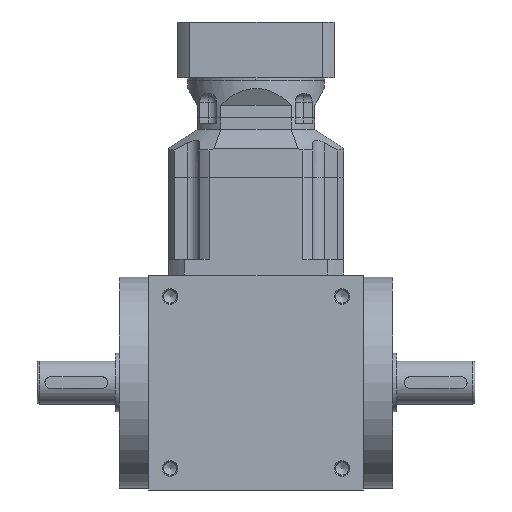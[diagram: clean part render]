
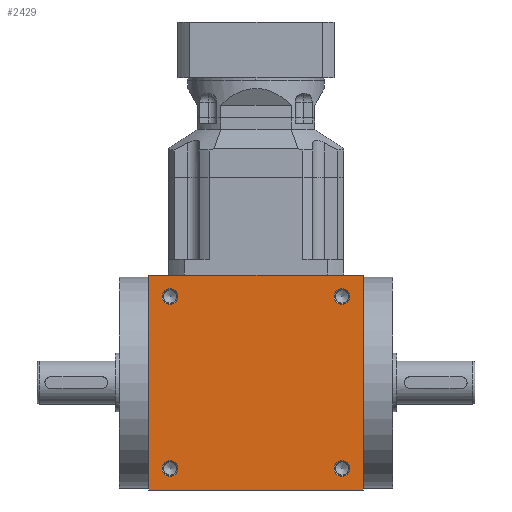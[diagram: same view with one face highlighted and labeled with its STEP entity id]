
A CAD part, left-side view. The second image highlights one B-rep face of the part: STEP entity #2429.
In plain terms, the highlighted planar face has unit normal (-1, 0, 0).
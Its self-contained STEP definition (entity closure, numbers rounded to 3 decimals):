
#657=LINE('',#12305,#1283);
#662=LINE('',#12606,#1288);
#663=LINE('',#12634,#1289);
#665=LINE('',#12637,#1291);
#1283=VECTOR('',#9705,1.);
#1288=VECTOR('',#10074,1.);
#1289=VECTOR('',#10111,1.);
#1291=VECTOR('',#10115,1.);
#1907=PLANE('',#8910);
#2429=ADVANCED_FACE('',(#3137,#3138,#3139,#3140,#3141),#1907,.T.);
#3137=FACE_BOUND('',#3488,.T.);
#3138=FACE_BOUND('',#3489,.T.);
#3139=FACE_BOUND('',#3490,.T.);
#3140=FACE_BOUND('',#3491,.T.);
#3141=FACE_BOUND('',#3492,.T.);
#3488=EDGE_LOOP('',(#4307));
#3489=EDGE_LOOP('',(#4308));
#3490=EDGE_LOOP('',(#4309));
#3491=EDGE_LOOP('',(#4310));
#3492=EDGE_LOOP('',(#4311,#4312,#4313,#4314));
#4307=ORIENTED_EDGE('',*,*,#7289,.T.);
#4308=ORIENTED_EDGE('',*,*,#7288,.T.);
#4309=ORIENTED_EDGE('',*,*,#7287,.T.);
#4310=ORIENTED_EDGE('',*,*,#7286,.T.);
#4311=ORIENTED_EDGE('',*,*,#7310,.T.);
#4312=ORIENTED_EDGE('',*,*,#7298,.T.);
#4313=ORIENTED_EDGE('',*,*,#7308,.F.);
#4314=ORIENTED_EDGE('',*,*,#7180,.T.);
#6361=VERTEX_POINT('',#12304);
#6362=VERTEX_POINT('',#12306);
#6463=VERTEX_POINT('',#12574);
#6464=VERTEX_POINT('',#12577);
#6465=VERTEX_POINT('',#12580);
#6466=VERTEX_POINT('',#12583);
#6473=VERTEX_POINT('',#12601);
#6475=VERTEX_POINT('',#12605);
#7180=EDGE_CURVE('',#6362,#6361,#657,.T.);
#7286=EDGE_CURVE('',#6463,#6463,#8364,.T.);
#7287=EDGE_CURVE('',#6464,#6464,#8365,.T.);
#7288=EDGE_CURVE('',#6465,#6465,#8366,.T.);
#7289=EDGE_CURVE('',#6466,#6466,#8367,.T.);
#7298=EDGE_CURVE('',#6473,#6475,#662,.T.);
#7308=EDGE_CURVE('',#6362,#6475,#663,.T.);
#7310=EDGE_CURVE('',#6361,#6473,#665,.T.);
#8364=CIRCLE('',#8874,4.);
#8365=CIRCLE('',#8876,4.);
#8366=CIRCLE('',#8878,4.);
#8367=CIRCLE('',#8880,4.);
#8874=AXIS2_PLACEMENT_3D('',#12573,#10037,#10038);
#8876=AXIS2_PLACEMENT_3D('',#12576,#10041,#10042);
#8878=AXIS2_PLACEMENT_3D('',#12579,#10045,#10046);
#8880=AXIS2_PLACEMENT_3D('',#12582,#10049,#10050);
#8910=AXIS2_PLACEMENT_3D('',#12638,#10116,#10117);
#9705=DIRECTION('',(0.,-1.,0.));
#10037=DIRECTION('',(1.,0.,0.));
#10038=DIRECTION('',(0.,0.,1.));
#10041=DIRECTION('',(1.,0.,0.));
#10042=DIRECTION('',(0.,0.,1.));
#10045=DIRECTION('',(1.,0.,0.));
#10046=DIRECTION('',(0.,0.,1.));
#10049=DIRECTION('',(1.,0.,0.));
#10050=DIRECTION('',(0.,0.,1.));
#10074=DIRECTION('',(0.,1.,0.));
#10111=DIRECTION('',(0.,0.,1.));
#10115=DIRECTION('',(0.,0.,1.));
#10116=DIRECTION('',(-1.,0.,0.));
#10117=DIRECTION('',(0.,0.,-1.));
#12304=CARTESIAN_POINT('',(0.,0.,0.));
#12305=CARTESIAN_POINT('',(0.,55.,0.));
#12306=CARTESIAN_POINT('',(0.,110.,0.));
#12573=CARTESIAN_POINT('',(0.,11.,11.));
#12574=CARTESIAN_POINT('',(0.,11.,15.));
#12576=CARTESIAN_POINT('',(0.,11.,99.));
#12577=CARTESIAN_POINT('',(0.,11.,103.));
#12579=CARTESIAN_POINT('',(0.,99.,11.));
#12580=CARTESIAN_POINT('',(0.,99.,15.));
#12582=CARTESIAN_POINT('',(0.,99.,99.));
#12583=CARTESIAN_POINT('',(0.,99.,103.));
#12601=CARTESIAN_POINT('',(0.,0.,110.));
#12605=CARTESIAN_POINT('',(0.,110.,110.));
#12606=CARTESIAN_POINT('',(0.,55.,110.));
#12634=CARTESIAN_POINT('',(0.,110.,0.));
#12637=CARTESIAN_POINT('',(0.,0.,0.));
#12638=CARTESIAN_POINT('',(0.,55.,0.));
